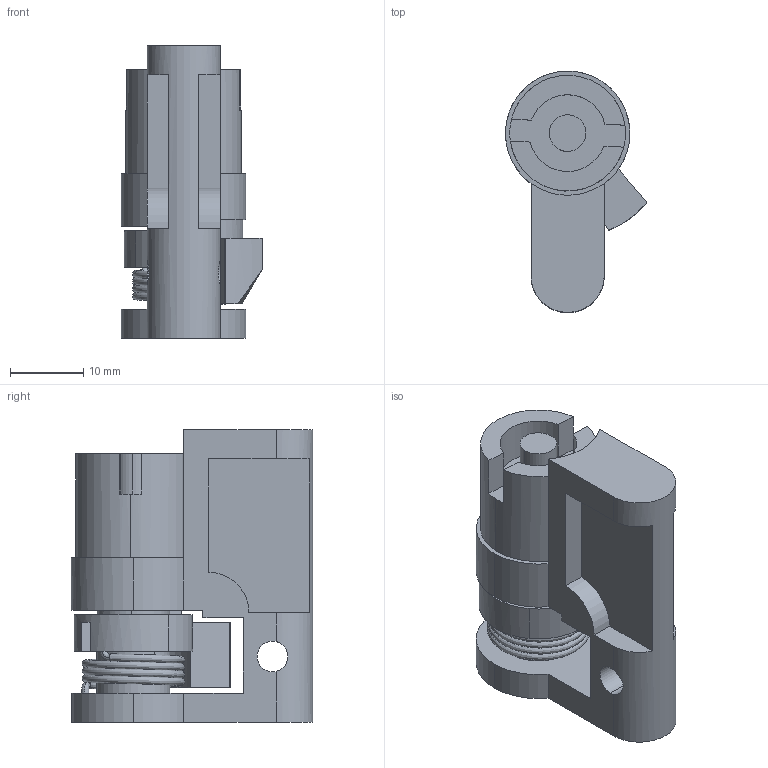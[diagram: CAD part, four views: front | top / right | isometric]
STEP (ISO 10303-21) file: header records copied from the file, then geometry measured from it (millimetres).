
FILE_DESCRIPTION (( 'STEP AP214' ), '1' );
FILE_NAME ('1C.WRS.D5.STEP', '2012-07-13T06:58:17', ( 'lukasz' ), ( 'ATC' ), 'SwSTEP 2.0', 'SolidWorks 2010', '' );
FILE_SCHEMA (( 'AUTOMOTIVE_DESIGN' ));
Length unit declared in the file: millimetre
Products named in the file (6): 1C.WRS.01.00.00_3gwintowanie; 1C.WRS.02.00.00_2szlifowanie; 1C.WRS.04.00.00_napiêta; M6x10_Default; D5; 1C.WRS.D5
Assembly tree (5 placements, depth 2):
  1C.WRS.D5
    D5
    1C.WRS.02.00.00_2szlifowanie
    1C.WRS.01.00.00_3gwintowanie
    1C.WRS.04.00.00_napiêta
    M6x10_Default
Bounding box: 19.29 x 33 x 40 mm (x, y, z)
Volume: 10379.2 mm3; surface area: 8259.3 mm2
Topology: 5 solids, 5 shells, 170 faces, 460 edges, 299 vertices
Faces by surface type: plane 76, cylinder 73, bspline 12, cone 9
Entity records: 9244 total; most frequent: CARTESIAN_POINT 4792, ORIENTED_EDGE 908, DIRECTION 865, EDGE_CURVE 454, AXIS2_PLACEMENT_3D 314, VERTEX_POINT 297, VECTOR 237, LINE 237
